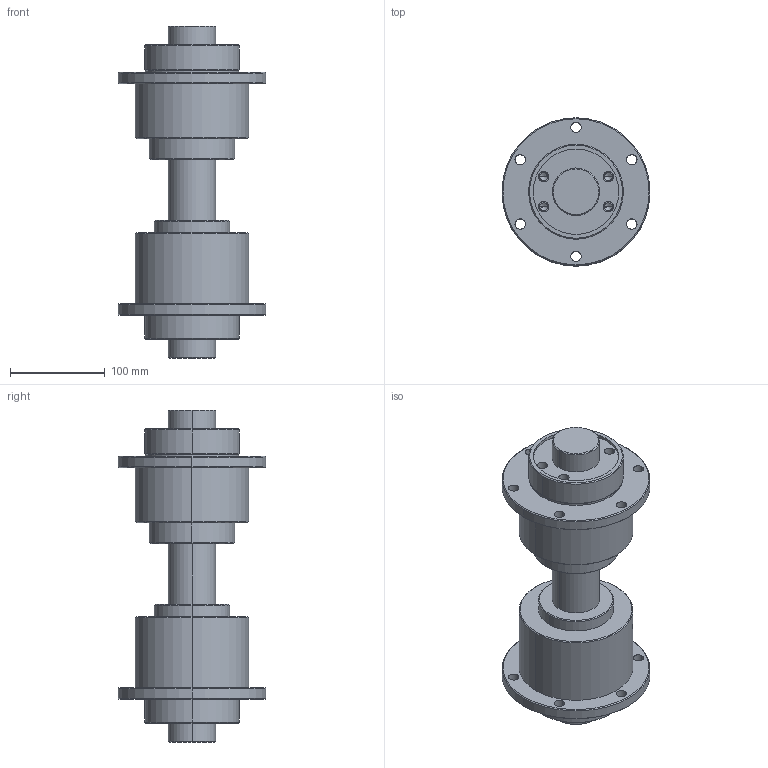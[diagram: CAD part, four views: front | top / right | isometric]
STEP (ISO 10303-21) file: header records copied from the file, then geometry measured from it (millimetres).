
FILE_DESCRIPTION (( 'STEP AP203' ), '1' );
FILE_NAME ('RBBY5050.STEP', '2014-11-13T08:56:40', ( '' ), ( '' ), 'SwSTEP 2.0', 'SolidWorks 2014', '' );
FILE_SCHEMA (( 'CONFIG_CONTROL_DESIGN' ));
Length unit declared in the file: millimetre
Products named in the file (4): SC50; RFBY5050; RLBF50; RBBY5050
Assembly tree (3 placements, depth 2):
  RBBY5050
    SC50
    RFBY5050
    RLBF50
Bounding box: 156 x 156 x 350 mm (x, y, z)
Volume: 2737501.7 mm3; surface area: 293839 mm2
Topology: 5 solids, 5 shells, 180 faces, 428 edges, 260 vertices
Faces by surface type: cylinder 112, cone 46, plane 22
Entity records: 5608 total; most frequent: DIRECTION 1030, CARTESIAN_POINT 854, ORIENTED_EDGE 816, AXIS2_PLACEMENT_3D 436, EDGE_CURVE 408, VERTEX_POINT 260, CIRCLE 250, EDGE_LOOP 234
